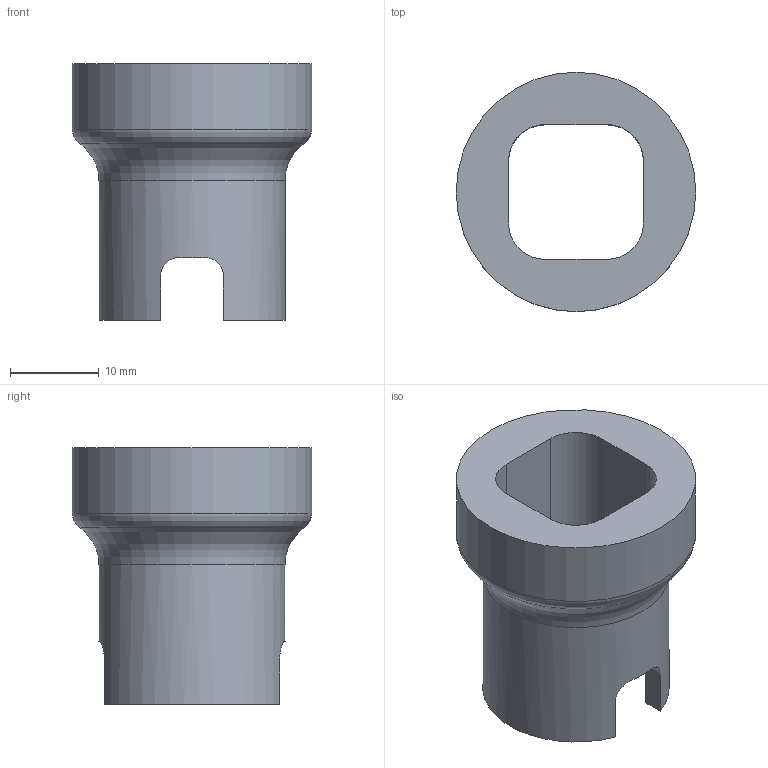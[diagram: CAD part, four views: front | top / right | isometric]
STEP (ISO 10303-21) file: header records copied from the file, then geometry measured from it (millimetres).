
FILE_DESCRIPTION(/* description */ (''),/* implementation_level */ '2;1');
FILE_NAME(/* name */ 'women_grip modify part B.stp',/* time_stamp */ '2025-12-01T13:34:00+09:00',/* author */ (''),/* organization */ (''),/* preprocessor_version */ 'ST-DEVELOPER v11',/* originating_system */ 'SIEMENS PLM Software NX 7.5',/* authorisation */ '');
FILE_SCHEMA (('CONFIG_CONTROL_DESIGN'));
Length unit declared in the file: millimetre
Products named in the file (1): gyun503Ekqc9
Bounding box: 27 x 27 x 28.92 mm (x, y, z)
Volume: 5677.8 mm3; surface area: 4069.9 mm2
Topology: 1 solids, 1 shells, 25 faces, 69 edges, 45 vertices
Faces by surface type: plane 13, cylinder 10, torus 2
Full cylindrical faces by diameter (mm): 21 x1, 27 x1
Entity records: 936 total; most frequent: CARTESIAN_POINT 231, ORIENTED_EDGE 128, DIRECTION 126, EDGE_CURVE 64, AXIS2_PLACEMENT_3D 47, VERTEX_POINT 44, LINE 32, VECTOR 32
